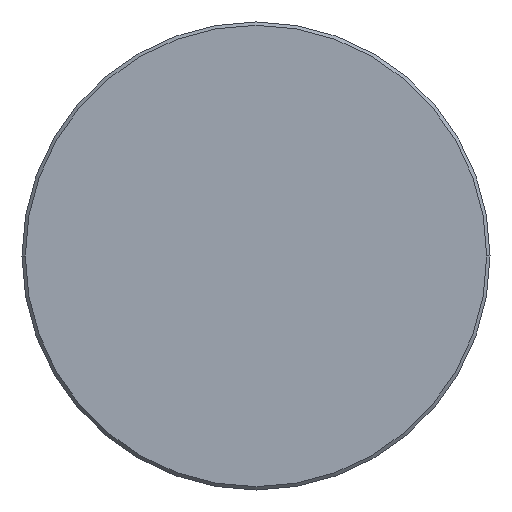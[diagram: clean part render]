
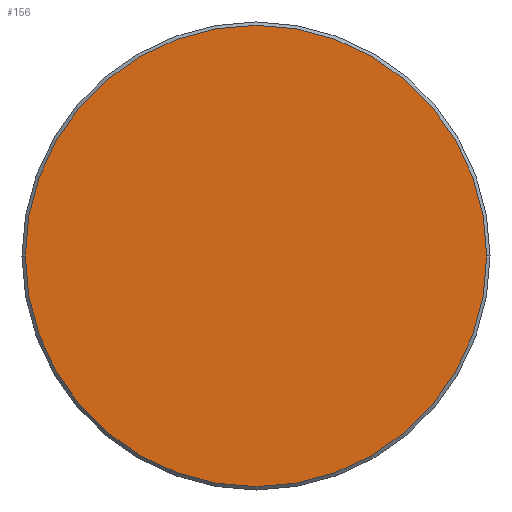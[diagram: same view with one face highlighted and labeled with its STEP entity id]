
A CAD part, left-side view. The second image highlights one B-rep face of the part: STEP entity #156.
In plain terms, the highlighted planar face has unit normal (-1, 0, 0).
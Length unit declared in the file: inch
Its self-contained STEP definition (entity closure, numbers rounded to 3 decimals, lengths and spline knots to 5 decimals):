
#1 = CARTESIAN_POINT ( 'NONE',  ( 0., 0.27725, 0. ) ) ;
#28 = DIRECTION ( 'NONE',  ( 0., -1., 0. ) ) ;
#31 = CARTESIAN_POINT ( 'NONE',  ( 0., -0.27725, 0. ) ) ;
#36 = FACE_OUTER_BOUND ( 'NONE', #314, .T. ) ;
#39 = ORIENTED_EDGE ( 'NONE', *, *, #173, .T. ) ;
#41 = AXIS2_PLACEMENT_3D ( 'NONE', #207, #346, #28 ) ;
#61 = CARTESIAN_POINT ( 'NONE',  ( 0., 0., 0. ) ) ;
#124 = AXIS2_PLACEMENT_3D ( 'NONE', #61, #321, #185 ) ;
#139 = AXIS2_PLACEMENT_3D ( 'NONE', #302, #222, #329 ) ;
#144 = PLANE ( 'NONE',  #41 ) ;
#156 = ADVANCED_FACE ( 'NONE', ( #36 ), #144, .T. ) ;
#173 = EDGE_CURVE ( 'NONE', #193, #201, #309, .T. ) ;
#185 = DIRECTION ( 'NONE',  ( 0., -1., 0. ) ) ;
#193 = VERTEX_POINT ( 'NONE', #1 ) ;
#201 = VERTEX_POINT ( 'NONE', #31 ) ;
#207 = CARTESIAN_POINT ( 'NONE',  ( 0., 0., 0. ) ) ;
#222 = DIRECTION ( 'NONE',  ( -1., 0., 0. ) ) ;
#246 = CIRCLE ( 'NONE', #139, 0.27725 ) ;
#302 = CARTESIAN_POINT ( 'NONE',  ( 0., 0., 0. ) ) ;
#309 = CIRCLE ( 'NONE', #124, 0.27725 ) ;
#314 = EDGE_LOOP ( 'NONE', ( #39, #322 ) ) ;
#321 = DIRECTION ( 'NONE',  ( -1., 0., 0. ) ) ;
#322 = ORIENTED_EDGE ( 'NONE', *, *, #355, .T. ) ;
#329 = DIRECTION ( 'NONE',  ( 0., -1., 0. ) ) ;
#346 = DIRECTION ( 'NONE',  ( -1., 0., 0. ) ) ;
#355 = EDGE_CURVE ( 'NONE', #201, #193, #246, .T. ) ;
